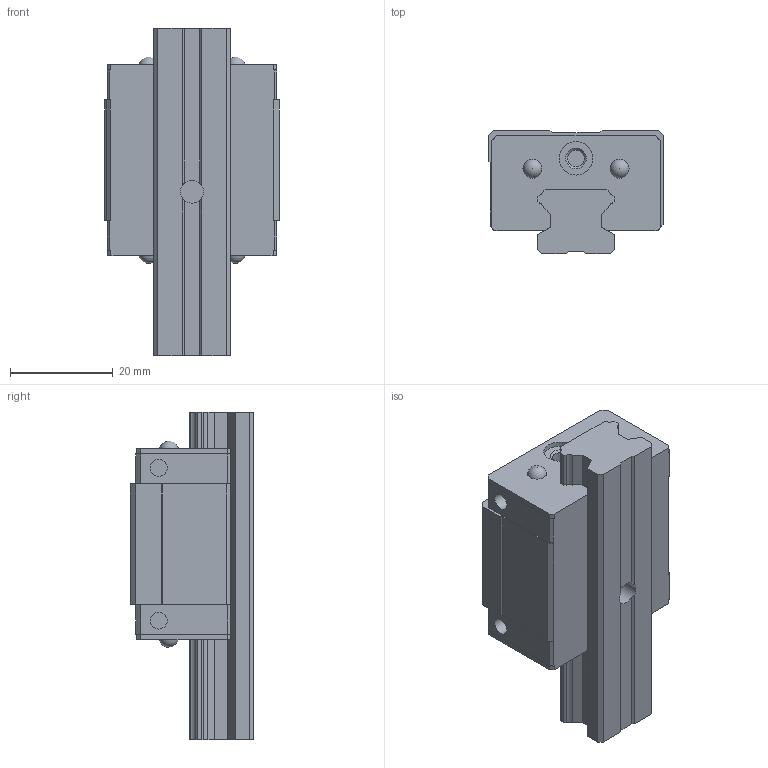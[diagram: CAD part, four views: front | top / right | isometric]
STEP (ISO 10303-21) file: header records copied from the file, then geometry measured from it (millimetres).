
FILE_DESCRIPTION( ( 'STEP AP214' ), '1' );
FILE_NAME( 'C:/Users/mimi4/OneDrive/Desktop/BSQ賅筐葭/MCS/MCS15SN.stp', '2019-11-25T10:45:00', ( ' ' ), ( ' ' ), 'XStep 1.0', 'VISICAD', ' ' );
FILE_SCHEMA( ( 'automotive_design' ) );
Length unit declared in the file: metre
Products named in the file (2): 1; 2
Bounding box: 34 x 24 x 63.9 mm (x, y, z)
Volume: 29340.5 mm3; surface area: 10785.7 mm2
Topology: 2 solids, 6 shells, 150 faces, 387 edges, 257 vertices
Faces by surface type: plane 114, cylinder 26, cone 6, sphere 4
Full cylindrical faces by diameter (mm): 3.242 x4, 3.3 x4, 4 x4, 4.5 x1, 6.5 x2, 7.5 x1
Entity records: 5514 total; most frequent: CARTESIAN_POINT 744, DIRECTION 718, ORIENTED_EDGE 694, EDGE_CURVE 347, LINE 280, VECTOR 280, VERTEX_POINT 245, AXIS2_PLACEMENT_3D 219
